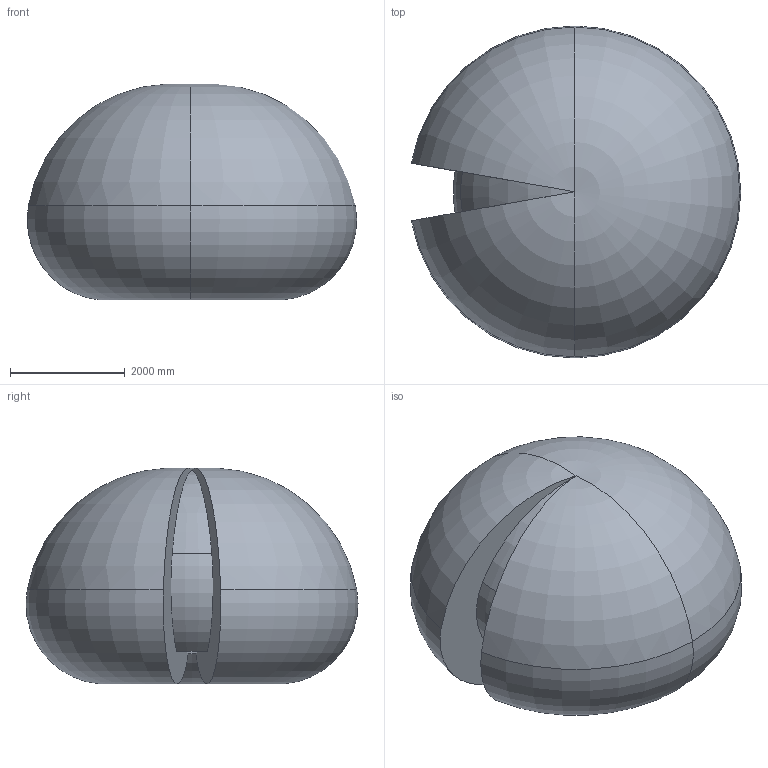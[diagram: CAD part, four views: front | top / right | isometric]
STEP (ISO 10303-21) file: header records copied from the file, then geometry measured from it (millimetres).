
FILE_DESCRIPTION (( 'STEP AP214' ), '1' );
FILE_NAME ('IRB6730-LID_220kg-290_OC_00_Working-space.step', '2026-05-26T09:11:57', ( '' ), ( '' ), 'SwSTEP 2.0', 'SolidWorks 2024', '' );
FILE_SCHEMA (( 'AUTOMOTIVE_DESIGN' ));
Length unit declared in the file: millimetre
Products named in the file (1): IRB6730-LID_220kg-290_OC_00_Working-space
Bounding box: 5734.23 x 5778.12 x 3754.85 mm (x, y, z)
Volume: 64018765621.4 mm3; surface area: 107472291.9 mm2
Topology: 1 solids, 1 shells, 18 faces, 44 edges, 20 vertices
Faces by surface type: torus 16, plane 2
Entity records: 503 total; most frequent: DIRECTION 110, CARTESIAN_POINT 75, ORIENTED_EDGE 72, AXIS2_PLACEMENT_3D 55, EDGE_CURVE 36, CIRCLE 36, VERTEX_POINT 20, FACE_OUTER_BOUND 18
